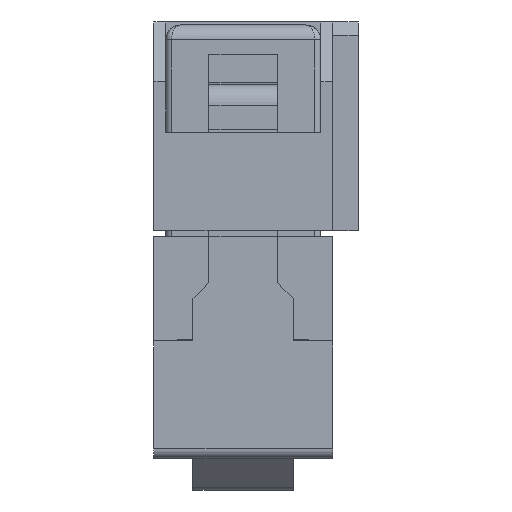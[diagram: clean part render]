
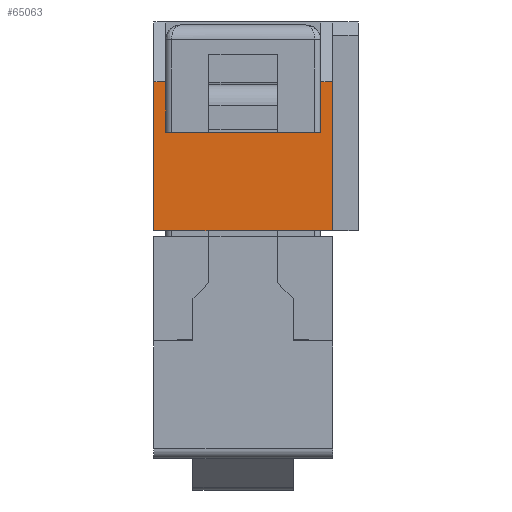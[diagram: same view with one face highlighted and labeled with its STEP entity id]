
A CAD part, left-side view. The second image highlights one B-rep face of the part: STEP entity #65063.
In plain terms, the highlighted planar face has unit normal (-1, 0, 0).
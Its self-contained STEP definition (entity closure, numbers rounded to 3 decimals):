
#60945 = PLANE('',#60946);
#60946 = AXIS2_PLACEMENT_3D('',#60947,#60948,#60949);
#60947 = CARTESIAN_POINT('',(-12.5,-3.,0.));
#60948 = DIRECTION('',(0.,0.,1.));
#60949 = DIRECTION('',(1.,0.,0.));
#62524 = PLANE('',#62525);
#62525 = AXIS2_PLACEMENT_3D('',#62526,#62527,#62528);
#62526 = CARTESIAN_POINT('',(-12.1,-2.6,26.853));
#62527 = DIRECTION('',(0.,1.,0.));
#62528 = DIRECTION('',(-1.,0.,0.));
#62597 = PLANE('',#62598);
#62598 = AXIS2_PLACEMENT_3D('',#62599,#62600,#62601);
#62599 = CARTESIAN_POINT('',(-10.7,2.6,26.853));
#62600 = DIRECTION('',(0.,-1.,0.));
#62601 = DIRECTION('',(1.,0.,0.));
#62894 = VERTEX_POINT('',#62895);
#62895 = CARTESIAN_POINT('',(-12.5,-3.,0.));
#62909 = PLANE('',#62910);
#62910 = AXIS2_PLACEMENT_3D('',#62911,#62912,#62913);
#62911 = CARTESIAN_POINT('',(-12.5,-3.,7.));
#62912 = DIRECTION('',(0.,1.,0.));
#62913 = DIRECTION('',(-1.,0.,0.));
#62921 = EDGE_CURVE('',#62922,#62894,#62924,.T.);
#62922 = VERTEX_POINT('',#62923);
#62923 = CARTESIAN_POINT('',(-12.5,3.,0.));
#62924 = SURFACE_CURVE('',#62925,(#62929,#62936),.PCURVE_S1.);
#62925 = LINE('',#62926,#62927);
#62926 = CARTESIAN_POINT('',(-12.5,3.,0.));
#62927 = VECTOR('',#62928,1.);
#62928 = DIRECTION('',(0.,-1.,0.));
#62929 = PCURVE('',#60945,#62930);
#62930 = DEFINITIONAL_REPRESENTATION('',(#62931),#62935);
#62931 = LINE('',#62932,#62933);
#62932 = CARTESIAN_POINT('',(0.,6.));
#62933 = VECTOR('',#62934,1.);
#62934 = DIRECTION('',(0.,-1.));
#62935 = ( GEOMETRIC_REPRESENTATION_CONTEXT(2) 
PARAMETRIC_REPRESENTATION_CONTEXT() REPRESENTATION_CONTEXT('2D SPACE',''
  ) );
#62936 = PCURVE('',#62937,#62942);
#62937 = PLANE('',#62938);
#62938 = AXIS2_PLACEMENT_3D('',#62939,#62940,#62941);
#62939 = CARTESIAN_POINT('',(-12.5,3.,7.));
#62940 = DIRECTION('',(1.,0.,0.));
#62941 = DIRECTION('',(0.,0.,-1.));
#62942 = DEFINITIONAL_REPRESENTATION('',(#62943),#62947);
#62943 = LINE('',#62944,#62945);
#62944 = CARTESIAN_POINT('',(7.,0.));
#62945 = VECTOR('',#62946,1.);
#62946 = DIRECTION('',(0.,-1.));
#62947 = ( GEOMETRIC_REPRESENTATION_CONTEXT(2) 
PARAMETRIC_REPRESENTATION_CONTEXT() REPRESENTATION_CONTEXT('2D SPACE',''
  ) );
#62965 = PLANE('',#62966);
#62966 = AXIS2_PLACEMENT_3D('',#62967,#62968,#62969);
#62967 = CARTESIAN_POINT('',(12.5,3.,7.));
#62968 = DIRECTION('',(0.,-1.,0.));
#62969 = DIRECTION('',(1.,0.,0.));
#65063 = ADVANCED_FACE('',(#65064),#62937,.F.);
#65064 = FACE_BOUND('',#65065,.T.);
#65065 = EDGE_LOOP('',(#65066,#65096,#65119,#65147,#65170,#65198,#65219,
    #65220));
#65066 = ORIENTED_EDGE('',*,*,#65067,.F.);
#65067 = EDGE_CURVE('',#65068,#65070,#65072,.T.);
#65068 = VERTEX_POINT('',#65069);
#65069 = CARTESIAN_POINT('',(-12.5,-2.6,5.));
#65070 = VERTEX_POINT('',#65071);
#65071 = CARTESIAN_POINT('',(-12.5,-3.,5.));
#65072 = SURFACE_CURVE('',#65073,(#65077,#65084),.PCURVE_S1.);
#65073 = LINE('',#65074,#65075);
#65074 = CARTESIAN_POINT('',(-12.5,3.,5.));
#65075 = VECTOR('',#65076,1.);
#65076 = DIRECTION('',(0.,-1.,0.));
#65077 = PCURVE('',#62937,#65078);
#65078 = DEFINITIONAL_REPRESENTATION('',(#65079),#65083);
#65079 = LINE('',#65080,#65081);
#65080 = CARTESIAN_POINT('',(2.,0.));
#65081 = VECTOR('',#65082,1.);
#65082 = DIRECTION('',(0.,-1.));
#65083 = ( GEOMETRIC_REPRESENTATION_CONTEXT(2) 
PARAMETRIC_REPRESENTATION_CONTEXT() REPRESENTATION_CONTEXT('2D SPACE',''
  ) );
#65084 = PCURVE('',#65085,#65090);
#65085 = PLANE('',#65086);
#65086 = AXIS2_PLACEMENT_3D('',#65087,#65088,#65089);
#65087 = CARTESIAN_POINT('',(-12.5,-26.853,5.));
#65088 = DIRECTION('',(-0.894,0.,0.447));
#65089 = DIRECTION('',(0.447,0.,0.894));
#65090 = DEFINITIONAL_REPRESENTATION('',(#65091),#65095);
#65091 = LINE('',#65092,#65093);
#65092 = CARTESIAN_POINT('',(0.,29.853));
#65093 = VECTOR('',#65094,1.);
#65094 = DIRECTION('',(0.,-1.));
#65095 = ( GEOMETRIC_REPRESENTATION_CONTEXT(2) 
PARAMETRIC_REPRESENTATION_CONTEXT() REPRESENTATION_CONTEXT('2D SPACE',''
  ) );
#65096 = ORIENTED_EDGE('',*,*,#65097,.F.);
#65097 = EDGE_CURVE('',#65098,#65068,#65100,.T.);
#65098 = VERTEX_POINT('',#65099);
#65099 = CARTESIAN_POINT('',(-12.5,-2.6,3.3));
#65100 = SURFACE_CURVE('',#65101,(#65105,#65112),.PCURVE_S1.);
#65101 = LINE('',#65102,#65103);
#65102 = CARTESIAN_POINT('',(-12.5,-2.6,3.3));
#65103 = VECTOR('',#65104,1.);
#65104 = DIRECTION('',(0.,0.,1.));
#65105 = PCURVE('',#62937,#65106);
#65106 = DEFINITIONAL_REPRESENTATION('',(#65107),#65111);
#65107 = LINE('',#65108,#65109);
#65108 = CARTESIAN_POINT('',(3.7,-5.6));
#65109 = VECTOR('',#65110,1.);
#65110 = DIRECTION('',(-1.,0.));
#65111 = ( GEOMETRIC_REPRESENTATION_CONTEXT(2) 
PARAMETRIC_REPRESENTATION_CONTEXT() REPRESENTATION_CONTEXT('2D SPACE',''
  ) );
#65112 = PCURVE('',#62524,#65113);
#65113 = DEFINITIONAL_REPRESENTATION('',(#65114),#65118);
#65114 = LINE('',#65115,#65116);
#65115 = CARTESIAN_POINT('',(0.4,-23.553));
#65116 = VECTOR('',#65117,1.);
#65117 = DIRECTION('',(0.,1.));
#65118 = ( GEOMETRIC_REPRESENTATION_CONTEXT(2) 
PARAMETRIC_REPRESENTATION_CONTEXT() REPRESENTATION_CONTEXT('2D SPACE',''
  ) );
#65119 = ORIENTED_EDGE('',*,*,#65120,.F.);
#65120 = EDGE_CURVE('',#65121,#65098,#65123,.T.);
#65121 = VERTEX_POINT('',#65122);
#65122 = CARTESIAN_POINT('',(-12.5,2.6,3.3));
#65123 = SURFACE_CURVE('',#65124,(#65128,#65135),.PCURVE_S1.);
#65124 = LINE('',#65125,#65126);
#65125 = CARTESIAN_POINT('',(-12.5,2.6,3.3));
#65126 = VECTOR('',#65127,1.);
#65127 = DIRECTION('',(0.,-1.,0.));
#65128 = PCURVE('',#62937,#65129);
#65129 = DEFINITIONAL_REPRESENTATION('',(#65130),#65134);
#65130 = LINE('',#65131,#65132);
#65131 = CARTESIAN_POINT('',(3.7,-0.4));
#65132 = VECTOR('',#65133,1.);
#65133 = DIRECTION('',(0.,-1.));
#65134 = ( GEOMETRIC_REPRESENTATION_CONTEXT(2) 
PARAMETRIC_REPRESENTATION_CONTEXT() REPRESENTATION_CONTEXT('2D SPACE',''
  ) );
#65135 = PCURVE('',#65136,#65141);
#65136 = PLANE('',#65137);
#65137 = AXIS2_PLACEMENT_3D('',#65138,#65139,#65140);
#65138 = CARTESIAN_POINT('',(14.353,2.6,3.3));
#65139 = DIRECTION('',(0.,0.,-1.));
#65140 = DIRECTION('',(-1.,0.,0.));
#65141 = DEFINITIONAL_REPRESENTATION('',(#65142),#65146);
#65142 = LINE('',#65143,#65144);
#65143 = CARTESIAN_POINT('',(26.853,0.));
#65144 = VECTOR('',#65145,1.);
#65145 = DIRECTION('',(0.,-1.));
#65146 = ( GEOMETRIC_REPRESENTATION_CONTEXT(2) 
PARAMETRIC_REPRESENTATION_CONTEXT() REPRESENTATION_CONTEXT('2D SPACE',''
  ) );
#65147 = ORIENTED_EDGE('',*,*,#65148,.F.);
#65148 = EDGE_CURVE('',#65149,#65121,#65151,.T.);
#65149 = VERTEX_POINT('',#65150);
#65150 = CARTESIAN_POINT('',(-12.5,2.6,5.));
#65151 = SURFACE_CURVE('',#65152,(#65156,#65163),.PCURVE_S1.);
#65152 = LINE('',#65153,#65154);
#65153 = CARTESIAN_POINT('',(-12.5,2.6,5.8));
#65154 = VECTOR('',#65155,1.);
#65155 = DIRECTION('',(0.,0.,-1.));
#65156 = PCURVE('',#62937,#65157);
#65157 = DEFINITIONAL_REPRESENTATION('',(#65158),#65162);
#65158 = LINE('',#65159,#65160);
#65159 = CARTESIAN_POINT('',(1.2,-0.4));
#65160 = VECTOR('',#65161,1.);
#65161 = DIRECTION('',(1.,0.));
#65162 = ( GEOMETRIC_REPRESENTATION_CONTEXT(2) 
PARAMETRIC_REPRESENTATION_CONTEXT() REPRESENTATION_CONTEXT('2D SPACE',''
  ) );
#65163 = PCURVE('',#62597,#65164);
#65164 = DEFINITIONAL_REPRESENTATION('',(#65165),#65169);
#65165 = LINE('',#65166,#65167);
#65166 = CARTESIAN_POINT('',(-1.8,-21.053));
#65167 = VECTOR('',#65168,1.);
#65168 = DIRECTION('',(0.,-1.));
#65169 = ( GEOMETRIC_REPRESENTATION_CONTEXT(2) 
PARAMETRIC_REPRESENTATION_CONTEXT() REPRESENTATION_CONTEXT('2D SPACE',''
  ) );
#65170 = ORIENTED_EDGE('',*,*,#65171,.F.);
#65171 = EDGE_CURVE('',#65172,#65149,#65174,.T.);
#65172 = VERTEX_POINT('',#65173);
#65173 = CARTESIAN_POINT('',(-12.5,3.,5.));
#65174 = SURFACE_CURVE('',#65175,(#65179,#65186),.PCURVE_S1.);
#65175 = LINE('',#65176,#65177);
#65176 = CARTESIAN_POINT('',(-12.5,3.,5.));
#65177 = VECTOR('',#65178,1.);
#65178 = DIRECTION('',(0.,-1.,0.));
#65179 = PCURVE('',#62937,#65180);
#65180 = DEFINITIONAL_REPRESENTATION('',(#65181),#65185);
#65181 = LINE('',#65182,#65183);
#65182 = CARTESIAN_POINT('',(2.,0.));
#65183 = VECTOR('',#65184,1.);
#65184 = DIRECTION('',(0.,-1.));
#65185 = ( GEOMETRIC_REPRESENTATION_CONTEXT(2) 
PARAMETRIC_REPRESENTATION_CONTEXT() REPRESENTATION_CONTEXT('2D SPACE',''
  ) );
#65186 = PCURVE('',#65187,#65192);
#65187 = PLANE('',#65188);
#65188 = AXIS2_PLACEMENT_3D('',#65189,#65190,#65191);
#65189 = CARTESIAN_POINT('',(-12.5,-26.853,5.));
#65190 = DIRECTION('',(-0.894,0.,0.447));
#65191 = DIRECTION('',(0.447,0.,0.894));
#65192 = DEFINITIONAL_REPRESENTATION('',(#65193),#65197);
#65193 = LINE('',#65194,#65195);
#65194 = CARTESIAN_POINT('',(0.,29.853));
#65195 = VECTOR('',#65196,1.);
#65196 = DIRECTION('',(0.,-1.));
#65197 = ( GEOMETRIC_REPRESENTATION_CONTEXT(2) 
PARAMETRIC_REPRESENTATION_CONTEXT() REPRESENTATION_CONTEXT('2D SPACE',''
  ) );
#65198 = ORIENTED_EDGE('',*,*,#65199,.T.);
#65199 = EDGE_CURVE('',#65172,#62922,#65200,.T.);
#65200 = SURFACE_CURVE('',#65201,(#65205,#65212),.PCURVE_S1.);
#65201 = LINE('',#65202,#65203);
#65202 = CARTESIAN_POINT('',(-12.5,3.,7.));
#65203 = VECTOR('',#65204,1.);
#65204 = DIRECTION('',(0.,0.,-1.));
#65205 = PCURVE('',#62937,#65206);
#65206 = DEFINITIONAL_REPRESENTATION('',(#65207),#65211);
#65207 = LINE('',#65208,#65209);
#65208 = CARTESIAN_POINT('',(0.,0.));
#65209 = VECTOR('',#65210,1.);
#65210 = DIRECTION('',(1.,0.));
#65211 = ( GEOMETRIC_REPRESENTATION_CONTEXT(2) 
PARAMETRIC_REPRESENTATION_CONTEXT() REPRESENTATION_CONTEXT('2D SPACE',''
  ) );
#65212 = PCURVE('',#62965,#65213);
#65213 = DEFINITIONAL_REPRESENTATION('',(#65214),#65218);
#65214 = LINE('',#65215,#65216);
#65215 = CARTESIAN_POINT('',(-25.,0.));
#65216 = VECTOR('',#65217,1.);
#65217 = DIRECTION('',(0.,-1.));
#65218 = ( GEOMETRIC_REPRESENTATION_CONTEXT(2) 
PARAMETRIC_REPRESENTATION_CONTEXT() REPRESENTATION_CONTEXT('2D SPACE',''
  ) );
#65219 = ORIENTED_EDGE('',*,*,#62921,.T.);
#65220 = ORIENTED_EDGE('',*,*,#65221,.F.);
#65221 = EDGE_CURVE('',#65070,#62894,#65222,.T.);
#65222 = SURFACE_CURVE('',#65223,(#65227,#65234),.PCURVE_S1.);
#65223 = LINE('',#65224,#65225);
#65224 = CARTESIAN_POINT('',(-12.5,-3.,7.));
#65225 = VECTOR('',#65226,1.);
#65226 = DIRECTION('',(0.,0.,-1.));
#65227 = PCURVE('',#62937,#65228);
#65228 = DEFINITIONAL_REPRESENTATION('',(#65229),#65233);
#65229 = LINE('',#65230,#65231);
#65230 = CARTESIAN_POINT('',(0.,-6.));
#65231 = VECTOR('',#65232,1.);
#65232 = DIRECTION('',(1.,0.));
#65233 = ( GEOMETRIC_REPRESENTATION_CONTEXT(2) 
PARAMETRIC_REPRESENTATION_CONTEXT() REPRESENTATION_CONTEXT('2D SPACE',''
  ) );
#65234 = PCURVE('',#62909,#65235);
#65235 = DEFINITIONAL_REPRESENTATION('',(#65236),#65240);
#65236 = LINE('',#65237,#65238);
#65237 = CARTESIAN_POINT('',(0.,0.));
#65238 = VECTOR('',#65239,1.);
#65239 = DIRECTION('',(-0.,-1.));
#65240 = ( GEOMETRIC_REPRESENTATION_CONTEXT(2) 
PARAMETRIC_REPRESENTATION_CONTEXT() REPRESENTATION_CONTEXT('2D SPACE',''
  ) );
